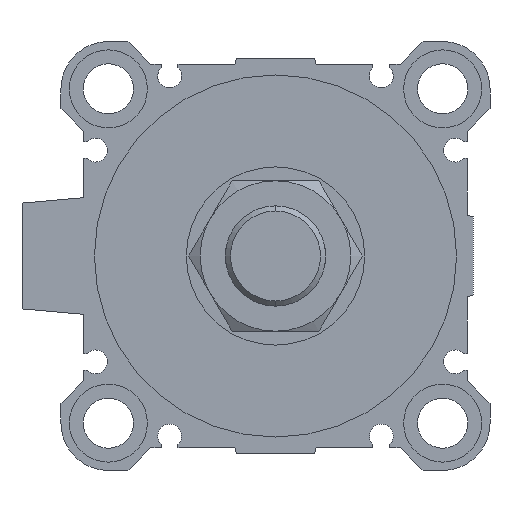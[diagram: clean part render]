
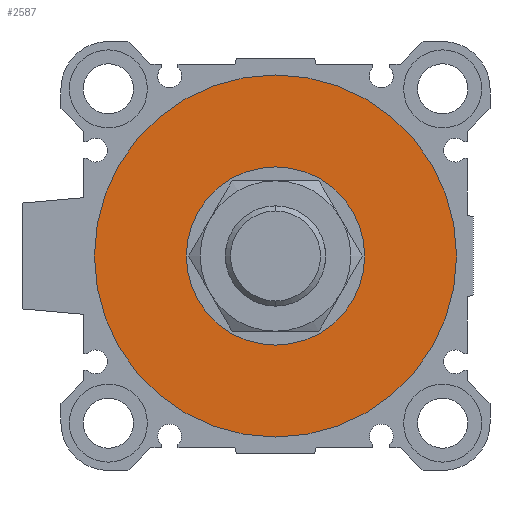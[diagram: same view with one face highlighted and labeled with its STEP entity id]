
A CAD part, left-side view. The second image highlights one B-rep face of the part: STEP entity #2587.
In plain terms, the highlighted planar face has unit normal (-1, 0, 0).
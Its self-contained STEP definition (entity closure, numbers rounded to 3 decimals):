
#25 = DIRECTION ( 'NONE',  ( 1., 0., 0. ) ) ;
#248 = EDGE_LOOP ( 'NONE', ( #2706, #2300 ) ) ;
#302 = VERTEX_POINT ( 'NONE', #3383 ) ;
#652 = FACE_OUTER_BOUND ( 'NONE', #4083, .T. ) ;
#707 = CIRCLE ( 'NONE', #1204, 16. ) ;
#829 = CARTESIAN_POINT ( 'NONE',  ( 4., 0., 0. ) ) ;
#895 = EDGE_CURVE ( 'NONE', #302, #1590, #4829, .T. ) ;
#1020 = VERTEX_POINT ( 'NONE', #5783 ) ;
#1204 = AXIS2_PLACEMENT_3D ( 'NONE', #829, #3739, #2665 ) ;
#1250 = EDGE_CURVE ( 'NONE', #1590, #302, #1673, .T. ) ;
#1571 = VERTEX_POINT ( 'NONE', #3041 ) ;
#1590 = VERTEX_POINT ( 'NONE', #1879 ) ;
#1673 = CIRCLE ( 'NONE', #7295, 32.5 ) ;
#1751 = DIRECTION ( 'NONE',  ( 0., 0., -1. ) ) ;
#1879 = CARTESIAN_POINT ( 'NONE',  ( 4., 0., -32.5 ) ) ;
#2108 = DIRECTION ( 'NONE',  ( 1., 0., 0. ) ) ;
#2240 = CARTESIAN_POINT ( 'NONE',  ( 4., 0., 0. ) ) ;
#2300 = ORIENTED_EDGE ( 'NONE', *, *, #6155, .T. ) ;
#2587 = ADVANCED_FACE ( 'NONE', ( #652, #7040 ), #6357, .F. ) ;
#2665 = DIRECTION ( 'NONE',  ( 0., 0., -1. ) ) ;
#2706 = ORIENTED_EDGE ( 'NONE', *, *, #3023, .T. ) ;
#2895 = CIRCLE ( 'NONE', #6058, 16. ) ;
#3023 = EDGE_CURVE ( 'NONE', #1020, #1571, #2895, .T. ) ;
#3041 = CARTESIAN_POINT ( 'NONE',  ( 4., 0., -16. ) ) ;
#3316 = CARTESIAN_POINT ( 'NONE',  ( 4., 0., 0. ) ) ;
#3383 = CARTESIAN_POINT ( 'NONE',  ( 4., 0., 32.5 ) ) ;
#3739 = DIRECTION ( 'NONE',  ( 1., 0., 0. ) ) ;
#4083 = EDGE_LOOP ( 'NONE', ( #4762, #7570 ) ) ;
#4096 = DIRECTION ( 'NONE',  ( 0., 1., 0. ) ) ;
#4453 = DIRECTION ( 'NONE',  ( 0., 0., -1. ) ) ;
#4762 = ORIENTED_EDGE ( 'NONE', *, *, #895, .F. ) ;
#4829 = CIRCLE ( 'NONE', #5439, 32.5 ) ;
#4883 = AXIS2_PLACEMENT_3D ( 'NONE', #7003, #5240, #4096 ) ;
#5020 = DIRECTION ( 'NONE',  ( 0., 0., -1. ) ) ;
#5240 = DIRECTION ( 'NONE',  ( 1., 0., 0. ) ) ;
#5439 = AXIS2_PLACEMENT_3D ( 'NONE', #3316, #6636, #4453 ) ;
#5783 = CARTESIAN_POINT ( 'NONE',  ( 4., 0., 16. ) ) ;
#6058 = AXIS2_PLACEMENT_3D ( 'NONE', #2240, #25, #1751 ) ;
#6155 = EDGE_CURVE ( 'NONE', #1571, #1020, #707, .T. ) ;
#6357 = PLANE ( 'NONE',  #4883 ) ;
#6636 = DIRECTION ( 'NONE',  ( 1., 0., 0. ) ) ;
#7003 = CARTESIAN_POINT ( 'NONE',  ( 4., 0., 0. ) ) ;
#7040 = FACE_BOUND ( 'NONE', #248, .T. ) ;
#7295 = AXIS2_PLACEMENT_3D ( 'NONE', #7357, #2108, #5020 ) ;
#7357 = CARTESIAN_POINT ( 'NONE',  ( 4., 0., 0. ) ) ;
#7570 = ORIENTED_EDGE ( 'NONE', *, *, #1250, .F. ) ;
